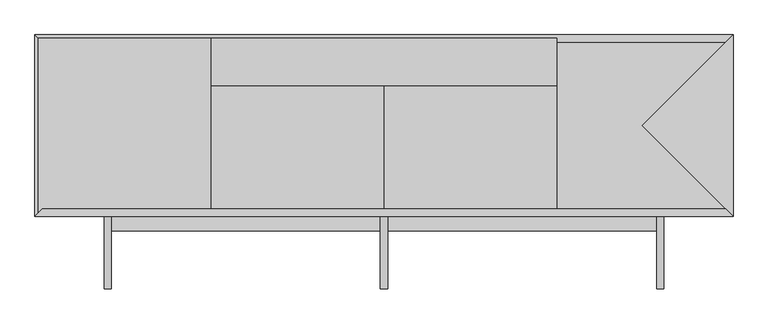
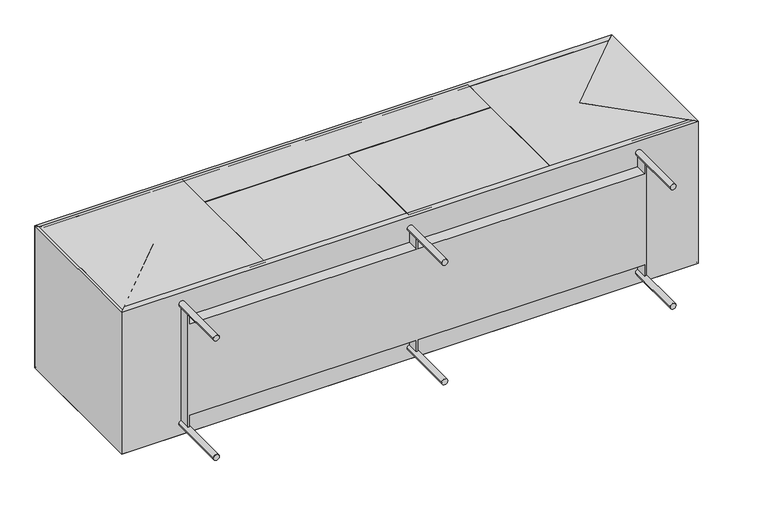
"""IFC4 building model written with IfcOpenShell, lengths in millimetres: proxy geometry, PARAGON^CREDENZA 2_35x96 4 DOORS 1 DRAWER-PARTS SOLID."""

from ifc_helpers import new_model, si_unit, frame, origin, place, context, project, spatial, polyline, circle_curve, outline, extrude, faceted_brep, source, transform, mapped, element, save
from ifc_brep_helpers import plane_surface, cylinder_surface, advanced_brep


def generic_models_7b891405(model_context):
    return source(origin(), model_context, "Body", "SolidModel", [
        faceted_brep([(2413.0, 25.4, 635.0), (25.4, 25.4, 635.0), (0.0, 0.0, 635.0), (2438.4, 0.0, 635.0), (2413.0, 25.4, 25.4), (25.4, 25.4, 25.4), (2438.4, 0.0, 0.0), (0.0, 0.0, 0.0)], [[[0, 1, 2, 3]], [[1, 0, 4, 5]], [[4, 0, 3, 6]], [[1, 5, 7, 2]], [[7, 5, 4, 6]], [[7, 6, 3, 2]]]),
        advanced_brep(
        [(266.7, 0.0, 50.8), (266.7, -254.0, 50.8), (241.3, -254.0, 50.8), (241.3, 0.0, 50.8), (266.7, 0.0, 584.2), (266.7, -254.0, 584.2), (241.3, -254.0, 584.2), (241.3, 0.0, 584.2), (250.825, 0.0, 571.9032779), (250.825, -50.8, 571.9032779), (257.175, -50.8, 571.9032779), (257.175, 0.0, 571.9032779), (2197.1, 0.0, 50.8), (2197.1, -254.0, 50.8), (2171.7, -254.0, 50.8), (2171.7, 0.0, 50.8), (2197.1, 0.0, 584.2), (2197.1, -254.0, 584.2), (2171.7, -254.0, 584.2), (2171.7, 0.0, 584.2), (2181.225, 0.0, 571.9032779), (2181.225, -50.8, 571.9032779), (2187.575, -50.8, 571.9032779), (2187.575, 0.0, 571.9032779), (1231.9, 0.0, 50.8), (1231.9, -254.0, 50.8), (1206.5, -254.0, 50.8), (1206.5, 0.0, 50.8), (1231.9, 0.0, 584.2), (1231.9, -254.0, 584.2), (1206.5, -254.0, 584.2), (1206.5, 0.0, 584.2), (1216.025, 0.0, 571.9032779), (1216.025, -50.8, 571.9032779), (1222.375, -50.8, 571.9032779), (1222.375, 0.0, 571.9032779), (257.175, 0.0, 113.8967221), (257.175, 0.0, 63.0967221), (250.825, 0.0, 63.0967221), (257.175, 0.0, 521.1032779), (1216.025, 0.0, 521.1032779), (1222.375, 0.0, 521.1032779), (2181.225, 0.0, 521.1032779), (2187.575, 0.0, 63.0967221), (2181.225, 0.0, 63.0967221), (2181.225, 0.0, 113.8967221), (1222.375, 0.0, 113.8967221), (1222.375, 0.0, 63.0967221), (1216.025, 0.0, 63.0967221), (1216.025, 0.0, 113.8967221), (257.175, -50.8, 113.8967221), (1216.025, -50.8, 113.8967221), (1216.025, -50.8, 63.0967221), (1222.375, -50.8, 63.0967221), (1222.375, -50.8, 113.8967221), (2181.225, -50.8, 113.8967221), (2181.225, -50.8, 63.0967221), (2187.575, -50.8, 63.0967221), (2181.225, -50.8, 521.1032779), (1222.375, -50.8, 521.1032779), (1216.025, -50.8, 521.1032779), (257.175, -50.8, 521.1032779), (250.825, -50.8, 63.0967221), (257.175, -50.8, 63.0967221)],
        [
            (0, 1),
            (1, 2, circle_curve(frame((254.0, -254.0, 50.8), z_axis=(0.0, 1.0, 0.0), x_axis=(1.0, 0.0, 0.0)), 12.7)),
            (2, 3),
            (3, 0, circle_curve(frame((254.0, 0.0, 50.8), z_axis=(0.0, -1.0, 0.0), x_axis=(1.0, 0.0, 0.0)), 12.7)),
            (4, 5),
            (5, 6, circle_curve(frame((254.0, -254.0, 584.2), z_axis=(0.0, 1.0, 0.0), x_axis=(1.0, 0.0, 0.0)), 12.7)),
            (6, 7),
            (7, 8, circle_curve(frame((254.0, 0.0, 584.2), z_axis=(0.0, -1.0, 0.0), x_axis=(1.0, 0.0, 0.0)), 12.7)),
            (8, 9),
            (9, 10, circle_curve(frame((254.0, -50.8, 584.2), z_axis=(0.0, -1.0, 0.0), x_axis=(1.0, 0.0, 0.0)), 12.7)),
            (10, 11),
            (11, 4, circle_curve(frame((254.0, 0.0, 584.2), z_axis=(0.0, -1.0, 0.0), x_axis=(1.0, 0.0, 0.0)), 12.7)),
            (12, 13),
            (13, 14, circle_curve(frame((2184.4, -254.0, 50.8), z_axis=(0.0, 1.0, 0.0), x_axis=(1.0, 0.0, 0.0)), 12.7)),
            (14, 15),
            (15, 12, circle_curve(frame((2184.4, 0.0, 50.8), z_axis=(0.0, -1.0, 0.0), x_axis=(1.0, 0.0, 0.0)), 12.7)),
            (16, 17),
            (17, 18, circle_curve(frame((2184.4, -254.0, 584.2), z_axis=(0.0, 1.0, 0.0), x_axis=(1.0, 0.0, 0.0)), 12.7)),
            (18, 19),
            (19, 20, circle_curve(frame((2184.4, 0.0, 584.2), z_axis=(0.0, -1.0, 0.0), x_axis=(1.0, 0.0, 0.0)), 12.7)),
            (20, 21),
            (21, 22, circle_curve(frame((2184.4, -50.8, 584.2), z_axis=(0.0, -1.0, 0.0), x_axis=(1.0, 0.0, 0.0)), 12.7)),
            (22, 23),
            (23, 16, circle_curve(frame((2184.4, 0.0, 584.2), z_axis=(0.0, -1.0, 0.0), x_axis=(1.0, 0.0, 0.0)), 12.7)),
            (24, 25),
            (25, 26, circle_curve(frame((1219.2, -254.0, 50.8), z_axis=(0.0, 1.0, 0.0), x_axis=(1.0, 0.0, 0.0)), 12.7)),
            (26, 27),
            (27, 24, circle_curve(frame((1219.2, 0.0, 50.8), z_axis=(0.0, -1.0, 0.0), x_axis=(1.0, 0.0, 0.0)), 12.7)),
            (28, 29),
            (29, 30, circle_curve(frame((1219.2, -254.0, 584.2), z_axis=(0.0, 1.0, 0.0), x_axis=(1.0, 0.0, 0.0)), 12.7)),
            (30, 31),
            (31, 32, circle_curve(frame((1219.2, 0.0, 584.2), z_axis=(0.0, -1.0, 0.0), x_axis=(1.0, 0.0, 0.0)), 12.7)),
            (32, 33),
            (33, 34, circle_curve(frame((1219.2, -50.8, 584.2), z_axis=(0.0, -1.0, 0.0), x_axis=(1.0, 0.0, 0.0)), 12.7)),
            (34, 35),
            (35, 28, circle_curve(frame((1219.2, 0.0, 584.2), z_axis=(0.0, -1.0, 0.0), x_axis=(1.0, 0.0, 0.0)), 12.7)),
            (36, 37),
            (37, 0, circle_curve(frame((254.0, 0.0, 50.8), z_axis=(0.0, 1.0, 0.0), x_axis=(1.0, 0.0, 0.0)), 12.7)),
            (3, 38, circle_curve(frame((254.0, 0.0, 50.8), z_axis=(0.0, 1.0, 0.0), x_axis=(1.0, 0.0, 0.0)), 12.7)),
            (38, 8),
            (7, 4, circle_curve(frame((254.0, 0.0, 584.2), z_axis=(0.0, 1.0, 0.0), x_axis=(1.0, 0.0, 0.0)), 12.7)),
            (11, 39),
            (39, 40),
            (40, 32),
            (31, 28, circle_curve(frame((1219.2, 0.0, 584.2), z_axis=(0.0, 1.0, 0.0), x_axis=(1.0, 0.0, 0.0)), 12.7)),
            (35, 41),
            (41, 42),
            (42, 20),
            (19, 16, circle_curve(frame((2184.4, 0.0, 584.2), z_axis=(0.0, 1.0, 0.0), x_axis=(1.0, 0.0, 0.0)), 12.7)),
            (23, 43),
            (43, 12, circle_curve(frame((2184.4, 0.0, 50.8), z_axis=(0.0, 1.0, 0.0), x_axis=(1.0, 0.0, 0.0)), 12.7)),
            (15, 44, circle_curve(frame((2184.4, 0.0, 50.8), z_axis=(0.0, 1.0, 0.0), x_axis=(1.0, 0.0, 0.0)), 12.7)),
            (44, 45),
            (45, 46),
            (46, 47),
            (47, 24, circle_curve(frame((1219.2, 0.0, 50.8), z_axis=(0.0, 1.0, 0.0), x_axis=(1.0, 0.0, 0.0)), 12.7)),
            (27, 48, circle_curve(frame((1219.2, 0.0, 50.8), z_axis=(0.0, 1.0, 0.0), x_axis=(1.0, 0.0, 0.0)), 12.7)),
            (48, 49),
            (49, 36),
            (50, 51),
            (51, 52),
            (52, 53, circle_curve(frame((1219.2, -50.8, 50.8), z_axis=(0.0, 1.0, 0.0), x_axis=(1.0, 0.0, 0.0)), 12.7)),
            (53, 54),
            (54, 55),
            (55, 56),
            (56, 57, circle_curve(frame((2184.4, -50.8, 50.8), z_axis=(0.0, 1.0, 0.0), x_axis=(1.0, 0.0, 0.0)), 12.7)),
            (57, 22),
            (21, 58),
            (58, 59),
            (59, 34),
            (33, 60),
            (60, 61),
            (61, 10),
            (9, 62),
            (62, 63, circle_curve(frame((254.0, -50.8, 50.8), z_axis=(0.0, 1.0, 0.0), x_axis=(1.0, 0.0, 0.0)), 12.7)),
            (63, 50),
            (49, 51),
            (50, 36),
            (54, 46),
            (45, 55),
            (41, 59),
            (58, 42),
            (60, 40),
            (39, 61),
            (48, 52),
            (53, 47),
            (30, 29, circle_curve(frame((1219.2, -254.0, 584.2), z_axis=(0.0, 1.0, 0.0), x_axis=(1.0, 0.0, 0.0)), 12.7)),
            (26, 25, circle_curve(frame((1219.2, -254.0, 50.8), z_axis=(0.0, 1.0, 0.0), x_axis=(1.0, 0.0, 0.0)), 12.7)),
            (44, 56),
            (57, 43),
            (18, 17, circle_curve(frame((2184.4, -254.0, 584.2), z_axis=(0.0, 1.0, 0.0), x_axis=(1.0, 0.0, 0.0)), 12.7)),
            (14, 13, circle_curve(frame((2184.4, -254.0, 50.8), z_axis=(0.0, 1.0, 0.0), x_axis=(1.0, 0.0, 0.0)), 12.7)),
            (63, 37),
            (38, 62),
            (6, 5, circle_curve(frame((254.0, -254.0, 584.2), z_axis=(0.0, 1.0, 0.0), x_axis=(1.0, 0.0, 0.0)), 12.7)),
            (2, 1, circle_curve(frame((254.0, -254.0, 50.8), z_axis=(0.0, 1.0, 0.0), x_axis=(1.0, 0.0, 0.0)), 12.7)),
        ],
        [
            cylinder_surface(frame((254.0, 0.0, 50.8), z_axis=(0.0, -1.0, 0.0), x_axis=(1.0, 0.0, 0.0)), 12.7),
            cylinder_surface(frame((254.0, 0.0, 584.2), z_axis=(0.0, -1.0, 0.0), x_axis=(1.0, 0.0, 0.0)), 12.7),
            cylinder_surface(frame((2184.4, 0.0, 50.8), z_axis=(0.0, -1.0, 0.0), x_axis=(1.0, 0.0, 0.0)), 12.7),
            cylinder_surface(frame((2184.4, 0.0, 584.2), z_axis=(0.0, -1.0, 0.0), x_axis=(1.0, 0.0, 0.0)), 12.7),
            cylinder_surface(frame((1219.2, 0.0, 50.8), z_axis=(0.0, -1.0, 0.0), x_axis=(1.0, 0.0, 0.0)), 12.7),
            cylinder_surface(frame((1219.2, 0.0, 584.2), z_axis=(0.0, -1.0, 0.0), x_axis=(1.0, 0.0, 0.0)), 12.7),
            plane_surface(frame((254.0, 0.0, 50.8), z_axis=(0.0, 1.0, 0.0), x_axis=(0.0, 0.0, -1.0))),
            plane_surface(frame((254.0, -50.8, 317.5), z_axis=(0.0, -1.0, 0.0), x_axis=(0.0, 0.0, -1.0))),
            plane_surface(frame((257.175, -50.8, 113.8967221), z_axis=(0.0, 0.0, -1.0), x_axis=(0.0, 1.0, 0.0))),
            plane_surface(frame((257.175, 0.0, 521.1032779), z_axis=(0.0, 0.0, 1.0), x_axis=(0.0, -1.0, 0.0))),
            plane_surface(frame((1216.025, 0.0, 584.2), z_axis=(-1.0, 0.0, 0.0), x_axis=(0.0, 0.0, -1.0))),
            plane_surface(frame((1222.375, 0.0, 50.8), z_axis=(1.0, 0.0, 0.0), x_axis=(0.0, 0.0, 1.0))),
            plane_surface(frame((1219.2, -254.0, 584.2), z_axis=(0.0, -1.0, 0.0), x_axis=(0.0, 0.0, -1.0))),
            plane_surface(frame((1219.2, -254.0, 50.8), z_axis=(0.0, -1.0, 0.0), x_axis=(0.0, 0.0, -1.0))),
            plane_surface(frame((2181.225, 0.0, 584.2), z_axis=(-1.0, 0.0, 0.0), x_axis=(0.0, 0.0, -1.0))),
            plane_surface(frame((2187.575, 0.0, 50.8), z_axis=(1.0, 0.0, 0.0), x_axis=(0.0, 0.0, 1.0))),
            plane_surface(frame((2184.4, -254.0, 584.2), z_axis=(0.0, -1.0, 0.0), x_axis=(0.0, 0.0, -1.0))),
            plane_surface(frame((2184.4, -254.0, 50.8), z_axis=(0.0, -1.0, 0.0), x_axis=(0.0, 0.0, -1.0))),
            plane_surface(frame((257.175, 0.0, 50.8), z_axis=(1.0, 0.0, 0.0), x_axis=(0.0, 0.0, 1.0))),
            plane_surface(frame((250.825, 0.0, 584.2), z_axis=(-1.0, 0.0, 0.0), x_axis=(0.0, 0.0, -1.0))),
            plane_surface(frame((254.0, -254.0, 584.2), z_axis=(0.0, -1.0, 0.0), x_axis=(0.0, 0.0, -1.0))),
            plane_surface(frame((254.0, -254.0, 50.8), z_axis=(0.0, -1.0, 0.0), x_axis=(0.0, 0.0, -1.0))),
        ],
        [
            (0, [[1, 2, 3, 4]]),
            (1, [[5, 6, 7, 8, 9, 10, 11, 12]]),
            (2, [[13, 14, 15, 16]]),
            (3, [[17, 18, 19, 20, 21, 22, 23, 24]]),
            (4, [[25, 26, 27, 28]]),
            (5, [[29, 30, 31, 32, 33, 34, 35, 36]]),
            (6, [[37, 38, -4, 39, 40, -8, 41, -12, 42, 43, 44, -32, 45, -36, 46, 47, 48, -20, 49, -24, 50, 51, -16, 52, 53, 54, 55, 56, -28, 57, 58, 59]]),
            (7, [[60, 61, 62, 63, 64, 65, 66, 67, -22, 68, 69, 70, -34, 71, 72, 73, -10, 74, 75, 76]]),
            (8, [[77, -60, 78, -59]]),
            (8, [[79, -54, 80, -64]]),
            (9, [[81, -69, 82, -47]]),
            (9, [[83, -43, 84, -72]]),
            (10, [[-83, -71, -33, -44]]),
            (10, [[-77, -58, 85, -61]]),
            (11, [[-79, -63, 86, -55]]),
            (11, [[-81, -46, -35, -70]]),
            (5, [[-29, -45, -31, 87]]),
            (12, [[-87, -30]]),
            (4, [[-25, -56, -86, -62, -85, -57, -27, 88]]),
            (13, [[-88, -26]]),
            (14, [[-82, -68, -21, -48]]),
            (14, [[-80, -53, 89, -65]]),
            (15, [[90, -50, -23, -67]]),
            (3, [[-17, -49, -19, 91]]),
            (16, [[-91, -18]]),
            (2, [[-13, -51, -90, -66, -89, -52, -15, 92]]),
            (17, [[-92, -14]]),
            (18, [[-84, -42, -11, -73]]),
            (18, [[-78, -76, 93, -37]]),
            (19, [[94, -74, -9, -40]]),
            (1, [[-5, -41, -7, 95]]),
            (20, [[-95, -6]]),
            (0, [[-1, -38, -93, -75, -94, -39, -3, 96]]),
            (21, [[-96, -2]]),
        ],
    ),
        extrude(outline(polyline([(616.1484375, 623.09375), (1822.2515625, 623.09375), (1822.2515625, 457.2), (616.1484375, 457.2), (616.1484375, 623.09375)])), frame((0.0, 0.0, 609.6), z_axis=(0.0, 0.0, 1.0), x_axis=(1.0, 0.0, 0.0)), (0.0, 0.0, 1.0), 25.4),
        extrude(outline(polyline([(11.90625, 623.09375), (613.7671875, 623.09375), (613.7671875, 11.90625), (11.90625, 11.90625), (11.90625, 623.09375)])), frame((0.0, 0.0, 609.6), z_axis=(0.0, 0.0, 1.0), x_axis=(1.0, 0.0, 0.0)), (0.0, 0.0, 1.0), 25.4),
        faceted_brep([(2120.9, 317.5, 635.0), (2438.4, 635.0, 635.0), (2438.4, 635.0, 0.0), (2120.9, 317.5, 317.5), (2438.4, 0.0, 635.0), (2438.4, 0.0, 0.0)], [[[0, 1, 2, 3]], [[1, 0, 4]], [[5, 3, 2]], [[0, 3, 5, 4]], [[5, 2, 1, 4]]]),
        extrude(outline(polyline([(1831.975, 25.4), (1812.925, 25.4), (1812.925, 609.6), (1831.975, 609.6), (1831.975, 25.4)])), frame((0.0, 0.0, 25.4), z_axis=(0.0, 0.0, 1.0), x_axis=(1.0, 0.0, 0.0)), (0.0, 0.0, 1.0), 581.025),
        faceted_brep([(25.4, 609.6, 635.0), (2413.0, 609.6, 635.0), (2438.4, 635.0, 635.0), (0.0, 635.0, 635.0), (25.4, 609.6, 25.4), (2413.0, 609.6, 25.4), (0.0, 635.0, 0.0), (2438.4, 635.0, 0.0)], [[[0, 1, 2, 3]], [[1, 0, 4, 5]], [[4, 0, 3, 6]], [[7, 5, 4, 6]], [[7, 6, 3, 2]], [[1, 5, 7, 2]]]),
        extrude(outline(polyline([(1824.6328125, 11.90625), (1824.6328125, 623.09375), (2426.49375, 623.09375), (2426.49375, 11.90625), (1824.6328125, 11.90625)])), frame((0.0, 0.0, 609.6), z_axis=(0.0, 0.0, 1.0), x_axis=(1.0, 0.0, 0.0)), (0.0, 0.0, 1.0), 25.4),
        extrude(outline(polyline([(625.475, 25.4), (606.425, 25.4), (606.425, 609.6), (625.475, 609.6), (625.475, 25.4)])), frame((0.0, 0.0, 25.4), z_axis=(0.0, 0.0, 1.0), x_axis=(1.0, 0.0, 0.0)), (0.0, 0.0, 1.0), 581.025),
        extrude(outline(polyline([(1220.390625, 454.81875), (1822.2515625, 454.81875), (1822.2515625, 11.90625), (1220.390625, 11.90625), (1220.390625, 454.81875)])), frame((0.0, 0.0, 609.6), z_axis=(0.0, 0.0, 1.0), x_axis=(1.0, 0.0, 0.0)), (0.0, 0.0, 1.0), 25.4),
        faceted_brep([(317.5, 317.5, 635.0), (0.0, 0.0, 635.0), (0.0, 0.0, 0.0), (317.5, 317.5, 317.5), (0.0, 635.0, 635.0), (0.0, 635.0, 0.0)], [[[0, 1, 2, 3]], [[1, 0, 4]], [[5, 3, 2]], [[0, 3, 5, 4]], [[5, 2, 1, 4]]]),
        extrude(outline(polyline([(616.1484375, 454.81875), (1218.009375, 454.81875), (1218.009375, 11.90625), (616.1484375, 11.90625), (616.1484375, 454.81875)])), frame((0.0, 0.0, 609.6), z_axis=(0.0, 0.0, 1.0), x_axis=(1.0, 0.0, 0.0)), (0.0, 0.0, 1.0), 25.4),
        faceted_brep([(0.0, 0.0, 0.0), (317.5, 317.5, 317.5), (0.0, 635.0, 0.0), (2438.4, 0.0, 0.0), (2120.9, 317.5, 317.5), (2438.4, 635.0, 0.0)], [[[0, 1, 2]], [[1, 0, 3, 4]], [[1, 4, 5, 2]], [[5, 3, 0, 2]], [[4, 3, 5]]]),
    ])


if __name__ == "__main__":
    model = new_model("IFC4")
    model_context = context("Model", 3, world=origin())
    ifc_project = project(units=[si_unit("LENGTHUNIT", "METRE", prefix="MILLI")], contexts=[model_context])
    site = spatial("IfcSite", under=ifc_project)
    building = spatial("IfcBuilding", under=site)
    placement = place(None, origin())
    generic_models_shape = generic_models_7b891405(model_context)
    element("IfcBuildingElementProxy", 1, Name="PARAGON^CREDENZA 2_35x96 4 DOORS 1 DRAWER-PARTS SOLID", ObjectType="PARAGON^CREDENZA 2_35x96 4 DOORS 1 DRAWER-PARTS SOLID", at=placement, inside=building, context=model_context, shape_type="MappedRepresentation", body=[
        mapped(generic_models_shape, transform((0.0, 0.0, 0.0), x_axis=(1.0, 0.0, 0.0), y_axis=(0.0, 1.0, 0.0), z_axis=(0.0, 0.0, 1.0))),
    ])
    save(model, "model.ifc")
